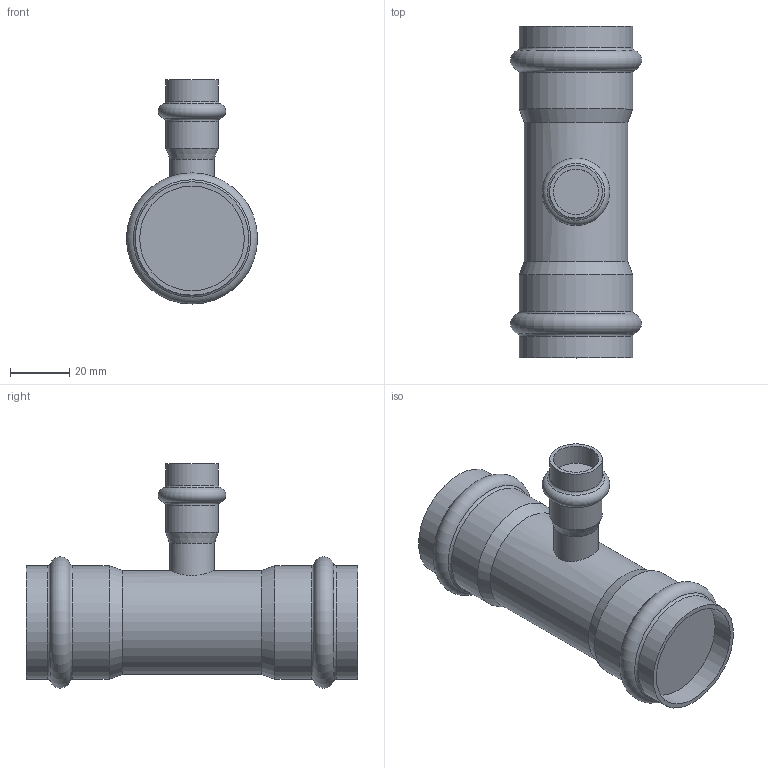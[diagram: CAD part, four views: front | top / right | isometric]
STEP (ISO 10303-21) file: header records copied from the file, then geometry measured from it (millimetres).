
FILE_DESCRIPTION(('STEP AP203'), '1');
FILE_NAME('VTi.931.I.351535', '', ('UNSPECIFIED'), ('UNSPECIFIED'), 'C3D Converter', 'C3D Toolkit', '');
FILE_SCHEMA(('CONFIG_CONTROL_DESIGN'));
Length unit declared in the file: millimetre
Bounding box: 44.28 x 112 x 75.64 mm (x, y, z)
Volume: 116675.1 mm3; surface area: 20375.5 mm2
Topology: 1 solids, 1 shells, 29 faces, 53 edges, 29 vertices
Faces by surface type: cylinder 11, torus 9, plane 6, cone 3
Full cylindrical faces by diameter (mm): 15 x1, 15.3 x1, 17.8 x2, 35 x1, 35.3 x2, 38.3 x4
Entity records: 784 total; most frequent: CARTESIAN_POINT 254, DIRECTION 114, ORIENTED_EDGE 58, AXIS2_PLACEMENT_3D 57, EDGE_LOOP 56, FACE_OUTER_BOUND 45, ADVANCED_FACE 29, EDGE_CURVE 29
